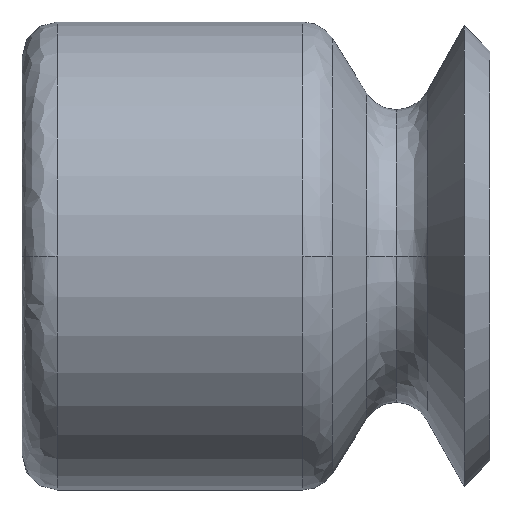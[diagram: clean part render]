
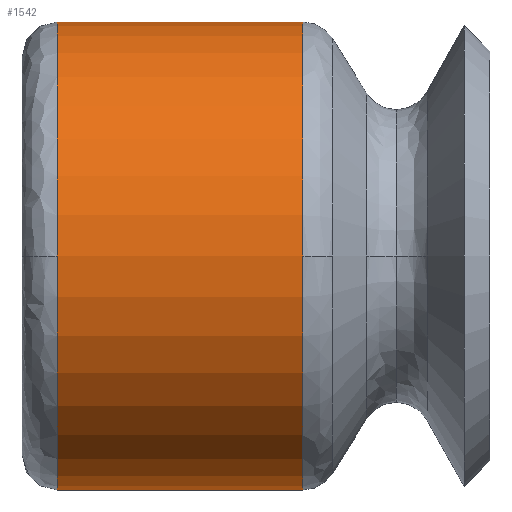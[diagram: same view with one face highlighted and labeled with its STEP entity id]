
A CAD part, left-side view. The second image highlights one B-rep face of the part: STEP entity #1542.
In plain terms, the highlighted cylindrical face has radius 2 mm (diameter 4 mm), a partial arc.
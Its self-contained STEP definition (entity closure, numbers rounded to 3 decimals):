
#28 = ORIENTED_EDGE ( 'NONE', *, *, #890, .F. ) ;
#36 = DIRECTION ( 'NONE',  ( 0., 1., 0. ) ) ;
#76 = CARTESIAN_POINT ( 'NONE',  ( 0., -2.4, 0. ) ) ;
#80 = DIRECTION ( 'NONE',  ( 0., -1., 0. ) ) ;
#81 = DIRECTION ( 'NONE',  ( -1., 0., 0. ) ) ;
#177 = CARTESIAN_POINT ( 'NONE',  ( 0., -2.4, -2. ) ) ;
#193 = LINE ( 'NONE', #1354, #739 ) ;
#229 = VERTEX_POINT ( 'NONE', #1213 ) ;
#324 = VECTOR ( 'NONE', #1295, 1000. ) ;
#350 = ORIENTED_EDGE ( 'NONE', *, *, #1048, .F. ) ;
#367 = CIRCLE ( 'NONE', #460, 2. ) ;
#432 = DIRECTION ( 'NONE',  ( -1., 0., 0. ) ) ;
#459 = CARTESIAN_POINT ( 'NONE',  ( 0., -0.3, 0. ) ) ;
#460 = AXIS2_PLACEMENT_3D ( 'NONE', #459, #36, #432 ) ;
#517 = CYLINDRICAL_SURFACE ( 'NONE', #834, 2. ) ;
#601 = VERTEX_POINT ( 'NONE', #863 ) ;
#639 = ORIENTED_EDGE ( 'NONE', *, *, #1464, .F. ) ;
#652 = CARTESIAN_POINT ( 'NONE',  ( 0., -2.4, -2. ) ) ;
#739 = VECTOR ( 'NONE', #781, 1000. ) ;
#742 = ORIENTED_EDGE ( 'NONE', *, *, #1226, .T. ) ;
#781 = DIRECTION ( 'NONE',  ( 0., 1., 0. ) ) ;
#789 = FACE_OUTER_BOUND ( 'NONE', #871, .T. ) ;
#834 = AXIS2_PLACEMENT_3D ( 'NONE', #1256, #1239, #1261 ) ;
#840 = CIRCLE ( 'NONE', #1393, 2. ) ;
#863 = CARTESIAN_POINT ( 'NONE',  ( 0., -0.3, 2. ) ) ;
#871 = EDGE_LOOP ( 'NONE', ( #639, #1416, #350, #742, #28, #1101 ) ) ;
#876 = EDGE_CURVE ( 'NONE', #1122, #1364, #1179, .T. ) ;
#890 = EDGE_CURVE ( 'NONE', #1009, #601, #367, .T. ) ;
#907 = AXIS2_PLACEMENT_3D ( 'NONE', #76, #80, #81 ) ;
#929 = CARTESIAN_POINT ( 'NONE',  ( -2., -0.3, 0. ) ) ;
#1009 = VERTEX_POINT ( 'NONE', #929 ) ;
#1048 = EDGE_CURVE ( 'NONE', #1408, #1122, #1564, .T. ) ;
#1095 = EDGE_CURVE ( 'NONE', #229, #1009, #840, .T. ) ;
#1101 = ORIENTED_EDGE ( 'NONE', *, *, #1095, .F. ) ;
#1122 = VERTEX_POINT ( 'NONE', #1471 ) ;
#1179 = CIRCLE ( 'NONE', #907, 2. ) ;
#1202 = LINE ( 'NONE', #177, #324 ) ;
#1213 = CARTESIAN_POINT ( 'NONE',  ( 0., -0.3, -2. ) ) ;
#1214 = CARTESIAN_POINT ( 'NONE',  ( 0., -2.4, 0. ) ) ;
#1216 = DIRECTION ( 'NONE',  ( 0., -1., 0. ) ) ;
#1220 = DIRECTION ( 'NONE',  ( 0., 0., -1. ) ) ;
#1226 = EDGE_CURVE ( 'NONE', #1408, #601, #193, .T. ) ;
#1239 = DIRECTION ( 'NONE',  ( 0., 1., 0. ) ) ;
#1256 = CARTESIAN_POINT ( 'NONE',  ( 0., -2.4, 0. ) ) ;
#1261 = DIRECTION ( 'NONE',  ( 0., 0., 1. ) ) ;
#1295 = DIRECTION ( 'NONE',  ( 0., 1., 0. ) ) ;
#1354 = CARTESIAN_POINT ( 'NONE',  ( 0., -2.4, 2. ) ) ;
#1356 = CARTESIAN_POINT ( 'NONE',  ( 0., -2.4, 2. ) ) ;
#1364 = VERTEX_POINT ( 'NONE', #652 ) ;
#1393 = AXIS2_PLACEMENT_3D ( 'NONE', #1474, #1476, #1478 ) ;
#1408 = VERTEX_POINT ( 'NONE', #1356 ) ;
#1416 = ORIENTED_EDGE ( 'NONE', *, *, #876, .F. ) ;
#1464 = EDGE_CURVE ( 'NONE', #1364, #229, #1202, .T. ) ;
#1471 = CARTESIAN_POINT ( 'NONE',  ( -2., -2.4, 0. ) ) ;
#1474 = CARTESIAN_POINT ( 'NONE',  ( 0., -0.3, 0. ) ) ;
#1476 = DIRECTION ( 'NONE',  ( 0., 1., 0. ) ) ;
#1478 = DIRECTION ( 'NONE',  ( -1., 0., 0. ) ) ;
#1523 = AXIS2_PLACEMENT_3D ( 'NONE', #1214, #1216, #1220 ) ;
#1542 = ADVANCED_FACE ( 'NONE', ( #789 ), #517, .T. ) ;
#1564 = CIRCLE ( 'NONE', #1523, 2. ) ;
